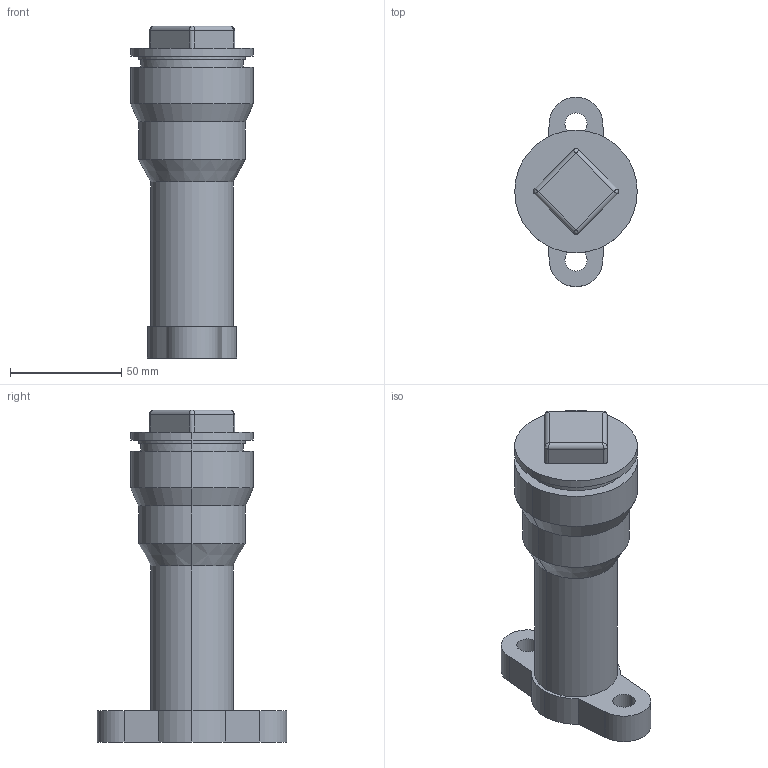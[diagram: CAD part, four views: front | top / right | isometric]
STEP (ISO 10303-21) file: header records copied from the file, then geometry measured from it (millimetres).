
FILE_DESCRIPTION(('CATIA V5 STEP Exchange','CAx-IF Rec.Pracs.--- Model Styling and Organization---1.2---2011-12-15'),'2;1');
FILE_NAME('S:\USER\CAT6\3DPlanerdaten_ab_2012\_pit-cup_ab_03-10-2016\4420\ZAK34-Adapter.stp','2018-03-29T08:17:39+00:00',('none'),('none'),'CATIA Version 5 Release 21 SP 5 (IN-10)','CATIA V5 STEP AP214 Edition 3','none');
FILE_SCHEMA(('AUTOMOTIVE_DESIGN { 1 0 10303 214 3 1 1 1 }'));
Length unit declared in the file: millimetre
Products named in the file (1): ZAK34-Adapter.stp
Bounding box: 55 x 85 x 149 mm (x, y, z)
Volume: 212094.6 mm3; surface area: 30574 mm2
Topology: 1 solids, 1 shells, 62 faces, 140 edges, 86 vertices
Faces by surface type: cylinder 38, plane 16, cone 4, bspline 4
Entity records: 3086 total; most frequent: CARTESIAN_POINT 1657, ORIENTED_EDGE 280, DIRECTION 234, EDGE_CURVE 140, AXIS2_PLACEMENT_3D 113, VERTEX_POINT 86, EDGE_LOOP 72, VECTOR 66
